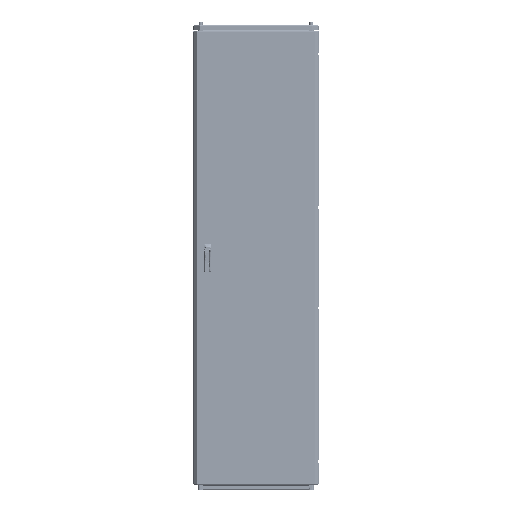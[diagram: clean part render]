
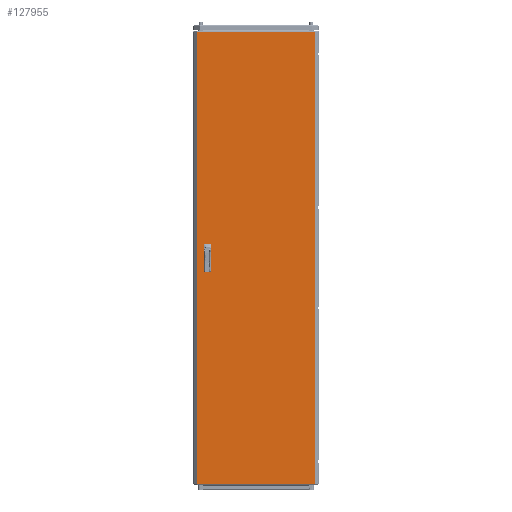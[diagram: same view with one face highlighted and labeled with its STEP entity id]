
A CAD part, top view. The second image highlights one B-rep face of the part: STEP entity #127955.
In plain terms, the highlighted planar face has unit normal (0, 0, 1).
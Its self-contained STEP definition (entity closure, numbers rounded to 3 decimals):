
#2539 = ORIENTED_EDGE ( 'NONE', *, *, #70603, .F. ) ;
#5196 = EDGE_CURVE ( 'NONE', #126958, #49494, #234290, .T. ) ;
#6636 = CARTESIAN_POINT ( 'NONE',  ( 277.875, -1069.5, 0. ) ) ;
#7525 = CARTESIAN_POINT ( 'NONE',  ( -217.5, -62.5, 0. ) ) ;
#12174 = FACE_BOUND ( 'NONE', #232494, .T. ) ;
#12702 = EDGE_CURVE ( 'NONE', #182417, #91022, #192062, .T. ) ;
#25651 = CARTESIAN_POINT ( 'NONE',  ( -242.5, -62.5, 0. ) ) ;
#26904 = DIRECTION ( 'NONE',  ( 0., -1., 0. ) ) ;
#27518 = EDGE_LOOP ( 'NONE', ( #2539, #126264, #230904, #197387 ) ) ;
#30526 = EDGE_CURVE ( 'NONE', #178323, #96675, #100533, .T. ) ;
#35126 = CARTESIAN_POINT ( 'NONE',  ( 277.875, -1069.5, 0. ) ) ;
#35346 = ORIENTED_EDGE ( 'NONE', *, *, #57970, .F. ) ;
#36773 = CARTESIAN_POINT ( 'NONE',  ( -277.875, -1069.5, 0. ) ) ;
#38440 = VECTOR ( 'NONE', #180254, 1000. ) ;
#38589 = EDGE_CURVE ( 'NONE', #53114, #164468, #57369, .T. ) ;
#45900 = DIRECTION ( 'NONE',  ( 1., 0., 0. ) ) ;
#49414 = VECTOR ( 'NONE', #232221, 1000. ) ;
#49494 = VERTEX_POINT ( 'NONE', #36773 ) ;
#49537 = CARTESIAN_POINT ( 'NONE',  ( -217.5, 12.5, 0. ) ) ;
#53114 = VERTEX_POINT ( 'NONE', #89778 ) ;
#55476 = CARTESIAN_POINT ( 'NONE',  ( -242.5, -62.5, 0. ) ) ;
#57369 = LINE ( 'NONE', #7525, #49414 ) ;
#57970 = EDGE_CURVE ( 'NONE', #96675, #182417, #93457, .T. ) ;
#61423 = CARTESIAN_POINT ( 'NONE',  ( -242.5, -12.5, 0. ) ) ;
#61802 = VECTOR ( 'NONE', #178675, 1000. ) ;
#62492 = VECTOR ( 'NONE', #45900, 1000. ) ;
#65922 = DIRECTION ( 'NONE',  ( -1., 0., 0. ) ) ;
#66409 = CARTESIAN_POINT ( 'NONE',  ( -277.875, -1069.5, 0. ) ) ;
#68997 = DIRECTION ( 'NONE',  ( -1., 0., 0. ) ) ;
#70603 = EDGE_CURVE ( 'NONE', #164468, #243282, #140778, .T. ) ;
#71508 = DIRECTION ( 'NONE',  ( 0., 1., 0. ) ) ;
#71818 = CARTESIAN_POINT ( 'NONE',  ( -277.875, 1069.5, 0. ) ) ;
#76752 = EDGE_LOOP ( 'NONE', ( #125197, #126107, #242054, #195897 ) ) ;
#78049 = VECTOR ( 'NONE', #81911, 1000. ) ;
#79990 = AXIS2_PLACEMENT_3D ( 'NONE', #235610, #238099, #68997 ) ;
#80883 = CARTESIAN_POINT ( 'NONE',  ( -242.5, 12.5, 0. ) ) ;
#81911 = DIRECTION ( 'NONE',  ( 0., 1., 0. ) ) ;
#83978 = CARTESIAN_POINT ( 'NONE',  ( -242.5, -12.5, 0. ) ) ;
#85638 = VERTEX_POINT ( 'NONE', #176159 ) ;
#87446 = FACE_OUTER_BOUND ( 'NONE', #76752, .T. ) ;
#89727 = CARTESIAN_POINT ( 'NONE',  ( -242.5, 62.5, 0. ) ) ;
#89778 = CARTESIAN_POINT ( 'NONE',  ( -217.5, -62.5, 0. ) ) ;
#90247 = VECTOR ( 'NONE', #65922, 1000. ) ;
#91022 = VERTEX_POINT ( 'NONE', #49537 ) ;
#93457 = LINE ( 'NONE', #168759, #167177 ) ;
#93579 = EDGE_CURVE ( 'NONE', #85638, #126958, #149516, .T. ) ;
#96675 = VERTEX_POINT ( 'NONE', #89727 ) ;
#97050 = CARTESIAN_POINT ( 'NONE',  ( -242.5, 12.5, 0. ) ) ;
#100533 = LINE ( 'NONE', #175823, #90247 ) ;
#101905 = DIRECTION ( 'NONE',  ( 0., -1., 0. ) ) ;
#103635 = EDGE_CURVE ( 'NONE', #91022, #178323, #141897, .T. ) ;
#103910 = VECTOR ( 'NONE', #164388, 1000. ) ;
#121996 = CARTESIAN_POINT ( 'NONE',  ( -277.875, 1069.5, 0. ) ) ;
#124500 = FACE_BOUND ( 'NONE', #27518, .T. ) ;
#125197 = ORIENTED_EDGE ( 'NONE', *, *, #139433, .T. ) ;
#126054 = VECTOR ( 'NONE', #71508, 1000. ) ;
#126107 = ORIENTED_EDGE ( 'NONE', *, *, #93579, .T. ) ;
#126264 = ORIENTED_EDGE ( 'NONE', *, *, #38589, .F. ) ;
#126958 = VERTEX_POINT ( 'NONE', #121996 ) ;
#127955 = ADVANCED_FACE ( 'NONE', ( #12174, #124500, #87446 ), #218323, .F. ) ;
#129700 = DIRECTION ( 'NONE',  ( 1., 0., 0. ) ) ;
#139433 = EDGE_CURVE ( 'NONE', #222893, #85638, #174557, .T. ) ;
#140778 = LINE ( 'NONE', #83978, #38440 ) ;
#140949 = LINE ( 'NONE', #175578, #62492 ) ;
#141897 = LINE ( 'NONE', #182630, #126054 ) ;
#141970 = EDGE_CURVE ( 'NONE', #157983, #53114, #140949, .T. ) ;
#149516 = LINE ( 'NONE', #71818, #103910 ) ;
#157428 = DIRECTION ( 'NONE',  ( 1., 0., 0. ) ) ;
#157983 = VERTEX_POINT ( 'NONE', #55476 ) ;
#160894 = ORIENTED_EDGE ( 'NONE', *, *, #30526, .F. ) ;
#164388 = DIRECTION ( 'NONE',  ( -1., 0., 0. ) ) ;
#164468 = VERTEX_POINT ( 'NONE', #217227 ) ;
#166763 = LINE ( 'NONE', #242077, #214048 ) ;
#167177 = VECTOR ( 'NONE', #101905, 1000. ) ;
#168759 = CARTESIAN_POINT ( 'NONE',  ( -242.5, 12.5, 0. ) ) ;
#169449 = ORIENTED_EDGE ( 'NONE', *, *, #103635, .F. ) ;
#174557 = LINE ( 'NONE', #6636, #78049 ) ;
#175578 = CARTESIAN_POINT ( 'NONE',  ( -242.5, -62.5, 0. ) ) ;
#175823 = CARTESIAN_POINT ( 'NONE',  ( -242.5, 62.5, 0. ) ) ;
#176159 = CARTESIAN_POINT ( 'NONE',  ( 277.875, 1069.5, 0. ) ) ;
#178323 = VERTEX_POINT ( 'NONE', #218424 ) ;
#178675 = DIRECTION ( 'NONE',  ( 0., -1., 0. ) ) ;
#180254 = DIRECTION ( 'NONE',  ( -1., 0., 0. ) ) ;
#182417 = VERTEX_POINT ( 'NONE', #80883 ) ;
#182575 = VECTOR ( 'NONE', #26904, 1000. ) ;
#182630 = CARTESIAN_POINT ( 'NONE',  ( -217.5, 12.5, 0. ) ) ;
#192062 = LINE ( 'NONE', #97050, #213218 ) ;
#195897 = ORIENTED_EDGE ( 'NONE', *, *, #197106, .T. ) ;
#197106 = EDGE_CURVE ( 'NONE', #49494, #222893, #166763, .T. ) ;
#197387 = ORIENTED_EDGE ( 'NONE', *, *, #201534, .F. ) ;
#201534 = EDGE_CURVE ( 'NONE', #243282, #157983, #234237, .T. ) ;
#203864 = ORIENTED_EDGE ( 'NONE', *, *, #12702, .F. ) ;
#213218 = VECTOR ( 'NONE', #157428, 1000. ) ;
#214048 = VECTOR ( 'NONE', #129700, 1000. ) ;
#217227 = CARTESIAN_POINT ( 'NONE',  ( -217.5, -12.5, 0. ) ) ;
#218323 = PLANE ( 'NONE',  #79990 ) ;
#218424 = CARTESIAN_POINT ( 'NONE',  ( -217.5, 62.5, 0. ) ) ;
#222893 = VERTEX_POINT ( 'NONE', #35126 ) ;
#230904 = ORIENTED_EDGE ( 'NONE', *, *, #141970, .F. ) ;
#232221 = DIRECTION ( 'NONE',  ( 0., 1., 0. ) ) ;
#232494 = EDGE_LOOP ( 'NONE', ( #160894, #169449, #203864, #35346 ) ) ;
#234237 = LINE ( 'NONE', #25651, #61802 ) ;
#234290 = LINE ( 'NONE', #66409, #182575 ) ;
#235610 = CARTESIAN_POINT ( 'NONE',  ( 0., 0., 0. ) ) ;
#238099 = DIRECTION ( 'NONE',  ( 0., 0., -1. ) ) ;
#242054 = ORIENTED_EDGE ( 'NONE', *, *, #5196, .T. ) ;
#242077 = CARTESIAN_POINT ( 'NONE',  ( -277.875, -1069.5, 0. ) ) ;
#243282 = VERTEX_POINT ( 'NONE', #61423 ) ;
